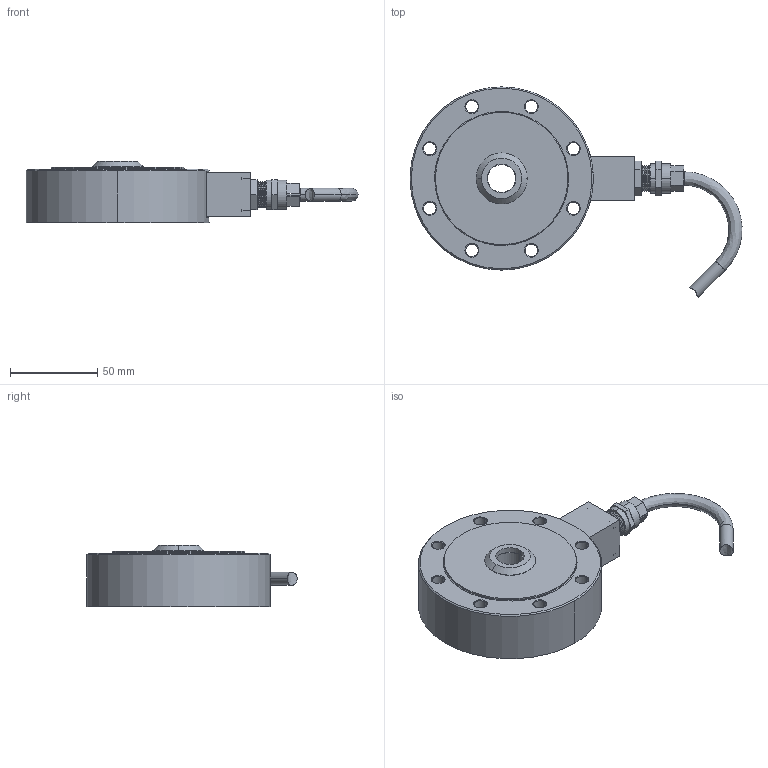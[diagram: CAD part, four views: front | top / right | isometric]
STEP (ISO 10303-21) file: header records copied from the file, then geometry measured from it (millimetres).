
FILE_DESCRIPTION (( 'STEP AP203' ), '1' );
FILE_NAME ('Interface 3210-2.5K THRU -10K.STEP', '2012-05-23T21:34:20', ( ' ' ), ( '' ), 'SwSTEP 2.0', 'SolidWorks 2002349', '' );
FILE_SCHEMA (( 'CONFIG_CONTROL_DESIGN' ));
Length unit declared in the file: inch
Products named in the file (1): Interface 3210-2.5K THRU -10K
Bounding box: 189.78 x 120.2 x 34.92 mm (x, y, z)
Volume: 275512.4 mm3; surface area: 41480.4 mm2
Topology: 1 solids, 1 shells, 208 faces, 521 edges, 332 vertices
Faces by surface type: plane 88, cylinder 65, cone 42, bspline 13
Entity records: 6582 total; most frequent: CARTESIAN_POINT 1395, DIRECTION 1111, ORIENTED_EDGE 1042, EDGE_CURVE 521, AXIS2_PLACEMENT_3D 414, VERTEX_POINT 332, LINE 283, VECTOR 283
